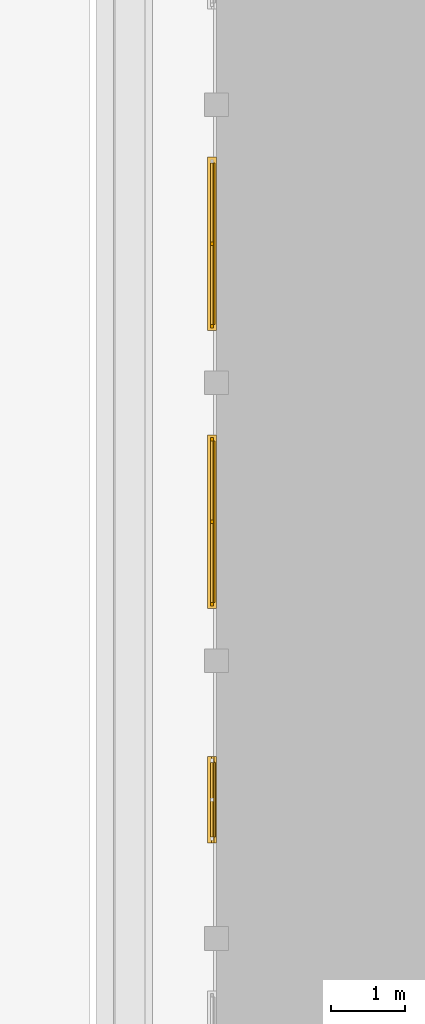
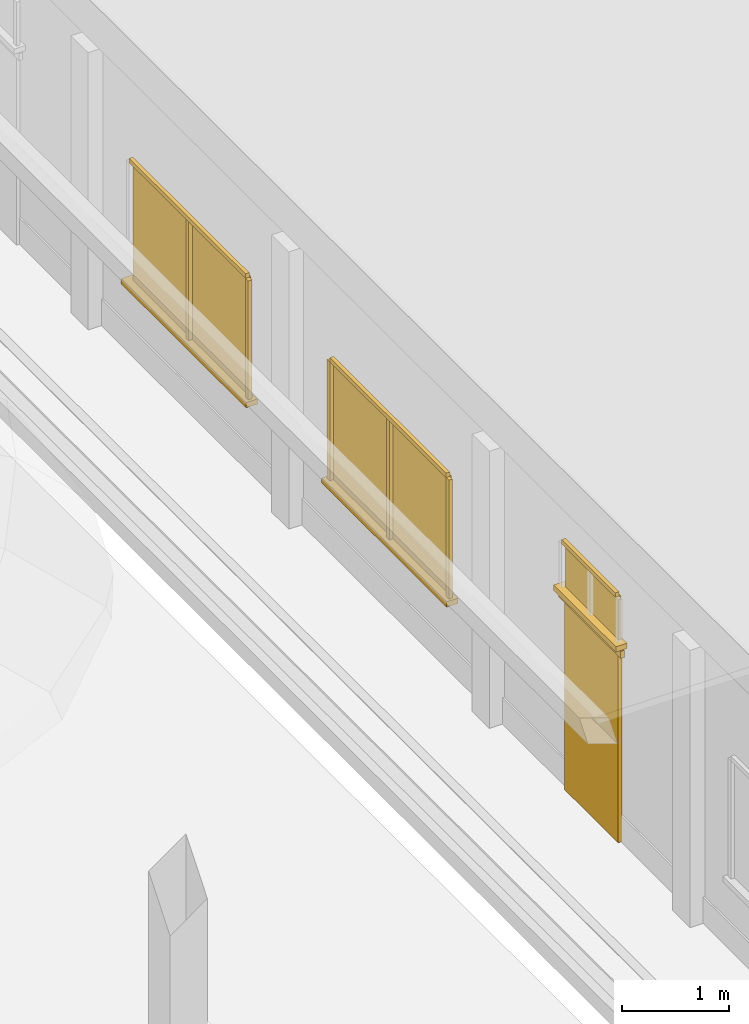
# One storey, part 43 of 177: 14 windows, 2 doors.
"""IFC4 building model written with IfcOpenShell, lengths in metres."""

from ifc_helpers import new_model, si_unit, origin, origin_with_axes, place, context, subcontext, project, spatial, triangles, element, save


model = new_model("IFC4")

# Units and contexts
model_context = context("Model", 3, precision=1e-05, world=origin_with_axes())
body_context = subcontext(model_context, "Body", "Model", "MODEL_VIEW")
ifc_project = project(units=[si_unit("LENGTHUNIT", "METRE"), si_unit("AREAUNIT", "SQUARE_METRE"), si_unit("VOLUMEUNIT", "CUBIC_METRE"), si_unit("PLANEANGLEUNIT", "RADIAN")], contexts=[model_context])

# Site, building, storey
site_placement = place(None, origin_with_axes())
site = spatial("IfcSite", under=ifc_project, at=site_placement, Name="Predio Los Mangos - Morales, San Martín", CompositionType="ELEMENT")
building_placement = place(site_placement, origin())
building = spatial("IfcBuilding", under=site, at=building_placement, Name="Hogar de Refugio Temporal", CompositionType="ELEMENT")
storey_placement = place(building_placement, origin())
storey = spatial("IfcBuildingStorey", under=building, at=storey_placement, Name="NIVEL 1 (NPT +0.00)", CompositionType="ELEMENT", Elevation=0.0)

# Doors
door_1_placement = place(storey_placement, origin())
element("IfcDoor", 1, at=door_1_placement, inside=storey, Name="E-01_p1", ObjectType="Puerta", PredefinedType="DOOR", context=body_context, shape_type="Tessellation", body=[
    triangles([(13.75, 31.4, 0.15), (13.79, 31.4, 0.15), (13.79, 32.4, 0.15), (13.75, 32.4, 0.15), (13.75, 31.4, 2.3), (13.79, 31.4, 2.3), (13.79, 32.4, 2.3), (13.75, 32.4, 2.3)], [[1, 4, 3], [1, 3, 2], [5, 6, 7], [5, 7, 8], [1, 2, 6], [1, 6, 5], [2, 3, 7], [2, 7, 6], [3, 4, 8], [3, 8, 7], [4, 1, 5], [4, 5, 8]]),
])
door_2_placement = place(storey_placement, origin())
element("IfcDoor", 2, at=door_2_placement, inside=storey, Name="E-01_p1_marco", ObjectType="Puerta", PredefinedType="DOOR", context=body_context, shape_type="Tessellation", body=[
    triangles([(13.73, 31.32, 2.3), (13.77, 31.32, 2.3), (13.77, 32.48, 2.3), (13.73, 32.48, 2.3), (13.73, 31.32, 2.38), (13.77, 31.32, 2.38), (13.77, 32.48, 2.38), (13.73, 32.48, 2.38)], [[1, 4, 3], [1, 3, 2], [5, 6, 7], [5, 7, 8], [1, 2, 6], [1, 6, 5], [2, 3, 7], [2, 7, 6], [3, 4, 8], [3, 8, 7], [4, 1, 5], [4, 5, 8]]),
])

# Windows
window_1_placement = place(storey_placement, origin())
element("IfcWindow", 3, at=window_1_placement, inside=storey, Name="E-01_vt1_vid", ObjectType="Ventana", PredefinedType="WINDOW", context=body_context, shape_type="Tessellation", body=[
    triangles([(13.76, 31.4, 2.45), (13.78, 31.4, 2.45), (13.78, 32.4, 2.45), (13.76, 32.4, 2.45), (13.76, 31.4, 2.95), (13.78, 31.4, 2.95), (13.78, 32.4, 2.95), (13.76, 32.4, 2.95)], [[1, 4, 3], [1, 3, 2], [5, 6, 7], [5, 7, 8], [1, 2, 6], [1, 6, 5], [2, 3, 7], [2, 7, 6], [3, 4, 8], [3, 8, 7], [4, 1, 5], [4, 5, 8]]),
])
window_2_placement = place(storey_placement, origin())
element("IfcWindow", 4, at=window_2_placement, inside=storey, Name="E-01_vt1_m", ObjectType="Ventana", PredefinedType="WINDOW", context=body_context, shape_type="Tessellation", body=[
    triangles([(13.72, 31.4, 2.95), (13.76, 31.4, 2.95), (13.76, 32.4, 2.95), (13.72, 32.4, 2.95), (13.72, 31.4, 3.0), (13.76, 31.4, 3.0), (13.76, 32.4, 3.0), (13.72, 32.4, 3.0)], [[1, 4, 3], [1, 3, 2], [5, 6, 7], [5, 7, 8], [1, 2, 6], [1, 6, 5], [2, 3, 7], [2, 7, 6], [3, 4, 8], [3, 8, 7], [4, 1, 5], [4, 5, 8]]),
])
window_3_placement = place(storey_placement, origin())
element("IfcWindow", 5, at=window_3_placement, inside=storey, Name="E-01_vt1_alf", ObjectType="Ventana", PredefinedType="WINDOW", context=body_context, shape_type="Tessellation", body=[
    triangles([(13.8, 31.32, 2.39), (13.68, 31.32, 2.39), (13.68, 32.48, 2.39), (13.8, 32.48, 2.39), (13.8, 31.32, 2.45), (13.68, 31.32, 2.45), (13.68, 32.48, 2.45), (13.8, 32.48, 2.45)], [[1, 4, 3], [1, 3, 2], [5, 6, 7], [5, 7, 8], [1, 2, 6], [1, 6, 5], [2, 3, 7], [2, 7, 6], [3, 4, 8], [3, 8, 7], [4, 1, 5], [4, 5, 8]]),
])
window_4_placement = place(storey_placement, origin())
element("IfcWindow", 6, at=window_4_placement, inside=storey, Name="E-01_v2_vid", ObjectType="Ventana", PredefinedType="WINDOW", context=body_context, shape_type="Tessellation", body=[
    triangles([(13.76, 34.5507, 1.05), (13.78, 34.5507, 1.05), (13.78, 36.716, 1.05), (13.76, 36.716, 1.05), (13.76, 34.5507, 2.4), (13.78, 34.5507, 2.4), (13.78, 36.716, 2.4), (13.76, 36.716, 2.4)], [[1, 4, 3], [1, 3, 2], [5, 6, 7], [5, 7, 8], [1, 2, 6], [1, 6, 5], [2, 3, 7], [2, 7, 6], [3, 4, 8], [3, 8, 7], [4, 1, 5], [4, 5, 8]]),
])
window_5_placement = place(storey_placement, origin())
element("IfcWindow", 7, at=window_5_placement, inside=storey, Name="E-01_v2_m", ObjectType="Ventana", PredefinedType="WINDOW", context=body_context, shape_type="Tessellation", body=[
    triangles([(13.72, 34.5007, 1.05), (13.76, 34.5007, 1.05), (13.76, 34.5507, 1.05), (13.72, 34.5507, 1.05), (13.72, 34.5007, 2.4), (13.76, 34.5007, 2.4), (13.76, 34.5507, 2.4), (13.72, 34.5507, 2.4)], [[1, 4, 3], [1, 3, 2], [5, 6, 7], [5, 7, 8], [1, 2, 6], [1, 6, 5], [2, 3, 7], [2, 7, 6], [3, 4, 8], [3, 8, 7], [4, 1, 5], [4, 5, 8]]),
])
window_6_placement = place(storey_placement, origin())
element("IfcWindow", 8, at=window_6_placement, inside=storey, Name="E-01_v2_m", ObjectType="Ventana", PredefinedType="WINDOW", context=body_context, shape_type="Tessellation", body=[
    triangles([(13.72, 36.716, 1.05), (13.76, 36.716, 1.05), (13.76, 36.766, 1.05), (13.72, 36.766, 1.05), (13.72, 36.716, 2.4), (13.76, 36.716, 2.4), (13.76, 36.766, 2.4), (13.72, 36.766, 2.4)], [[1, 4, 3], [1, 3, 2], [5, 6, 7], [5, 7, 8], [1, 2, 6], [1, 6, 5], [2, 3, 7], [2, 7, 6], [3, 4, 8], [3, 8, 7], [4, 1, 5], [4, 5, 8]]),
])
window_7_placement = place(storey_placement, origin())
element("IfcWindow", 9, at=window_7_placement, inside=storey, Name="E-01_v2_m", ObjectType="Ventana", PredefinedType="WINDOW", context=body_context, shape_type="Tessellation", body=[
    triangles([(13.72, 34.5507, 2.4), (13.76, 34.5507, 2.4), (13.76, 36.716, 2.4), (13.72, 36.716, 2.4), (13.72, 34.5507, 2.45), (13.76, 34.5507, 2.45), (13.76, 36.716, 2.45), (13.72, 36.716, 2.45)], [[1, 4, 3], [1, 3, 2], [5, 6, 7], [5, 7, 8], [1, 2, 6], [1, 6, 5], [2, 3, 7], [2, 7, 6], [3, 4, 8], [3, 8, 7], [4, 1, 5], [4, 5, 8]]),
])
window_8_placement = place(storey_placement, origin())
element("IfcWindow", 10, at=window_8_placement, inside=storey, Name="E-01_v2_m", ObjectType="Ventana", PredefinedType="WINDOW", context=body_context, shape_type="Tessellation", body=[
    triangles([(13.72, 35.6083, 1.05), (13.76, 35.6083, 1.05), (13.76, 35.6583, 1.05), (13.72, 35.6583, 1.05), (13.72, 35.6083, 2.4), (13.76, 35.6083, 2.4), (13.76, 35.6583, 2.4), (13.72, 35.6583, 2.4)], [[1, 4, 3], [1, 3, 2], [5, 6, 7], [5, 7, 8], [1, 2, 6], [1, 6, 5], [2, 3, 7], [2, 7, 6], [3, 4, 8], [3, 8, 7], [4, 1, 5], [4, 5, 8]]),
])
window_9_placement = place(storey_placement, origin())
element("IfcWindow", 11, at=window_9_placement, inside=storey, Name="E-01_v2_alf", ObjectType="Ventana", PredefinedType="WINDOW", context=body_context, shape_type="Tessellation", body=[
    triangles([(13.8, 34.4707, 0.99), (13.68, 34.4707, 0.99), (13.68, 36.796, 0.99), (13.8, 36.796, 0.99), (13.8, 34.4707, 1.05), (13.68, 34.4707, 1.05), (13.68, 36.796, 1.05), (13.8, 36.796, 1.05)], [[1, 4, 3], [1, 3, 2], [5, 6, 7], [5, 7, 8], [1, 2, 6], [1, 6, 5], [2, 3, 7], [2, 7, 6], [3, 4, 8], [3, 8, 7], [4, 1, 5], [4, 5, 8]]),
])
window_10_placement = place(storey_placement, origin())
element("IfcWindow", 12, at=window_10_placement, inside=storey, Name="E-01_v3_vid", ObjectType="Ventana", PredefinedType="WINDOW", context=body_context, shape_type="Tessellation", body=[
    triangles([(13.76, 38.284, 1.05), (13.78, 38.284, 1.05), (13.78, 40.4493, 1.05), (13.76, 40.4493, 1.05), (13.76, 38.284, 2.4), (13.78, 38.284, 2.4), (13.78, 40.4493, 2.4), (13.76, 40.4493, 2.4)], [[1, 4, 3], [1, 3, 2], [5, 6, 7], [5, 7, 8], [1, 2, 6], [1, 6, 5], [2, 3, 7], [2, 7, 6], [3, 4, 8], [3, 8, 7], [4, 1, 5], [4, 5, 8]]),
])
window_11_placement = place(storey_placement, origin())
element("IfcWindow", 13, at=window_11_placement, inside=storey, Name="E-01_v3_m", ObjectType="Ventana", PredefinedType="WINDOW", context=body_context, shape_type="Tessellation", body=[
    triangles([(13.72, 38.234, 1.05), (13.76, 38.234, 1.05), (13.76, 38.284, 1.05), (13.72, 38.284, 1.05), (13.72, 38.234, 2.4), (13.76, 38.234, 2.4), (13.76, 38.284, 2.4), (13.72, 38.284, 2.4)], [[1, 4, 3], [1, 3, 2], [5, 6, 7], [5, 7, 8], [1, 2, 6], [1, 6, 5], [2, 3, 7], [2, 7, 6], [3, 4, 8], [3, 8, 7], [4, 1, 5], [4, 5, 8]]),
])
window_12_placement = place(storey_placement, origin())
element("IfcWindow", 14, at=window_12_placement, inside=storey, Name="E-01_v3_m", ObjectType="Ventana", PredefinedType="WINDOW", context=body_context, shape_type="Tessellation", body=[
    triangles([(13.72, 38.284, 2.4), (13.76, 38.284, 2.4), (13.76, 40.4493, 2.4), (13.72, 40.4493, 2.4), (13.72, 38.284, 2.45), (13.76, 38.284, 2.45), (13.76, 40.4493, 2.45), (13.72, 40.4493, 2.45)], [[1, 4, 3], [1, 3, 2], [5, 6, 7], [5, 7, 8], [1, 2, 6], [1, 6, 5], [2, 3, 7], [2, 7, 6], [3, 4, 8], [3, 8, 7], [4, 1, 5], [4, 5, 8]]),
])
window_13_placement = place(storey_placement, origin())
element("IfcWindow", 15, at=window_13_placement, inside=storey, Name="E-01_v3_m", ObjectType="Ventana", PredefinedType="WINDOW", context=body_context, shape_type="Tessellation", body=[
    triangles([(13.72, 39.3417, 1.05), (13.76, 39.3417, 1.05), (13.76, 39.3917, 1.05), (13.72, 39.3917, 1.05), (13.72, 39.3417, 2.4), (13.76, 39.3417, 2.4), (13.76, 39.3917, 2.4), (13.72, 39.3917, 2.4)], [[1, 4, 3], [1, 3, 2], [5, 6, 7], [5, 7, 8], [1, 2, 6], [1, 6, 5], [2, 3, 7], [2, 7, 6], [3, 4, 8], [3, 8, 7], [4, 1, 5], [4, 5, 8]]),
])
window_14_placement = place(storey_placement, origin())
element("IfcWindow", 16, at=window_14_placement, inside=storey, Name="E-01_v3_alf", ObjectType="Ventana", PredefinedType="WINDOW", context=body_context, shape_type="Tessellation", body=[
    triangles([(13.8, 38.204, 0.99), (13.68, 38.204, 0.99), (13.68, 40.5293, 0.99), (13.8, 40.5293, 0.99), (13.8, 38.204, 1.05), (13.68, 38.204, 1.05), (13.68, 40.5293, 1.05), (13.8, 40.5293, 1.05)], [[1, 4, 3], [1, 3, 2], [5, 6, 7], [5, 7, 8], [1, 2, 6], [1, 6, 5], [2, 3, 7], [2, 7, 6], [3, 4, 8], [3, 8, 7], [4, 1, 5], [4, 5, 8]]),
])

save(model, "model.ifc")
